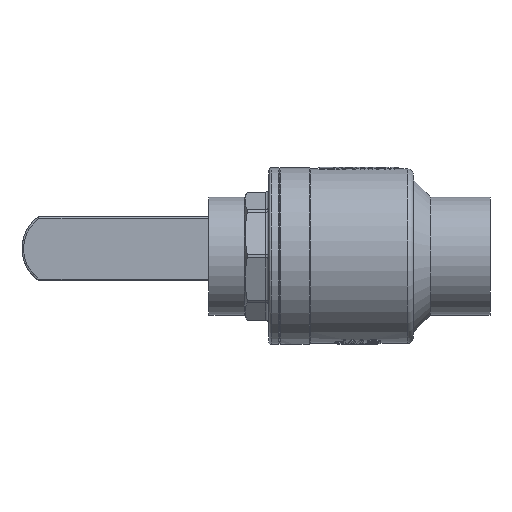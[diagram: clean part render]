
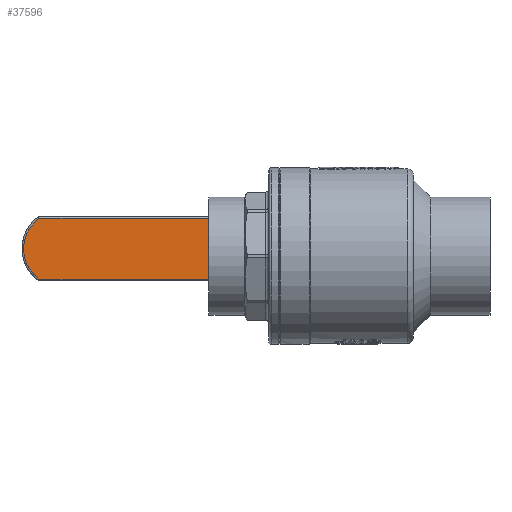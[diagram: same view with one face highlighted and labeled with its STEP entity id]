
A CAD part, front view. The second image highlights one B-rep face of the part: STEP entity #37596.
In plain terms, the highlighted planar face has unit normal (0, -1, 0).
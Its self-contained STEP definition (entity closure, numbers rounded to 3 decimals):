
#97 = EDGE_LOOP ( 'NONE', ( #60052, #25269, #24559, #73570 ) ) ;
#3928 = DIRECTION ( 'NONE',  ( -1., 0., 0. ) ) ;
#6163 = CARTESIAN_POINT ( 'NONE',  ( -24.5, -6., 0. ) ) ;
#7290 = CARTESIAN_POINT ( 'NONE',  ( -146.031, -6., 19.75 ) ) ;
#10511 = CARTESIAN_POINT ( 'NONE',  ( -10.002, -6., 19.75 ) ) ;
#22045 = CARTESIAN_POINT ( 'NONE',  ( -146.031, -6., -19.75 ) ) ;
#24499 = EDGE_CURVE ( 'NONE', #122186, #45074, #65581, .T. ) ;
#24559 = ORIENTED_EDGE ( 'NONE', *, *, #96654, .T. ) ;
#25269 = ORIENTED_EDGE ( 'NONE', *, *, #24499, .T. ) ;
#25858 = VECTOR ( 'NONE', #75642, 1000. ) ;
#26617 = VECTOR ( 'NONE', #31586, 1000. ) ;
#27423 = CIRCLE ( 'NONE', #34597, 24.5 ) ;
#30876 = CARTESIAN_POINT ( 'NONE',  ( -146.031, -6., 19.75 ) ) ;
#31586 = DIRECTION ( 'NONE',  ( -1., 0., 0. ) ) ;
#34597 = AXIS2_PLACEMENT_3D ( 'NONE', #6163, #75362, #36475 ) ;
#36475 = DIRECTION ( 'NONE',  ( -1., 0., 0. ) ) ;
#36538 = VERTEX_POINT ( 'NONE', #37363 ) ;
#37363 = CARTESIAN_POINT ( 'NONE',  ( -10.002, -6., -19.75 ) ) ;
#37596 = ADVANCED_FACE ( 'NONE', ( #124290 ), #121383, .F. ) ;
#45074 = VERTEX_POINT ( 'NONE', #22045 ) ;
#46228 = VECTOR ( 'NONE', #103149, 1000. ) ;
#46798 = EDGE_CURVE ( 'NONE', #96380, #122186, #86150, .T. ) ;
#50371 = CARTESIAN_POINT ( 'NONE',  ( -146.531, -6., 19.75 ) ) ;
#53153 = CARTESIAN_POINT ( 'NONE',  ( -146.531, -6., -19.75 ) ) ;
#60052 = ORIENTED_EDGE ( 'NONE', *, *, #46798, .T. ) ;
#64522 = LINE ( 'NONE', #53153, #46228 ) ;
#65581 = LINE ( 'NONE', #7290, #25858 ) ;
#73570 = ORIENTED_EDGE ( 'NONE', *, *, #109477, .T. ) ;
#75362 = DIRECTION ( 'NONE',  ( 0., -1., 0. ) ) ;
#75642 = DIRECTION ( 'NONE',  ( 0., 0., -1. ) ) ;
#86150 = LINE ( 'NONE', #50371, #26617 ) ;
#96380 = VERTEX_POINT ( 'NONE', #10511 ) ;
#96654 = EDGE_CURVE ( 'NONE', #45074, #36538, #64522, .T. ) ;
#101747 = DIRECTION ( 'NONE',  ( 0., 1., 0. ) ) ;
#103149 = DIRECTION ( 'NONE',  ( 1., 0., 0. ) ) ;
#109477 = EDGE_CURVE ( 'NONE', #36538, #96380, #27423, .T. ) ;
#110334 = CARTESIAN_POINT ( 'NONE',  ( -146.531, -6., 19.75 ) ) ;
#121383 = PLANE ( 'NONE',  #121584 ) ;
#121584 = AXIS2_PLACEMENT_3D ( 'NONE', #110334, #101747, #3928 ) ;
#122186 = VERTEX_POINT ( 'NONE', #30876 ) ;
#124290 = FACE_OUTER_BOUND ( 'NONE', #97, .T. ) ;
